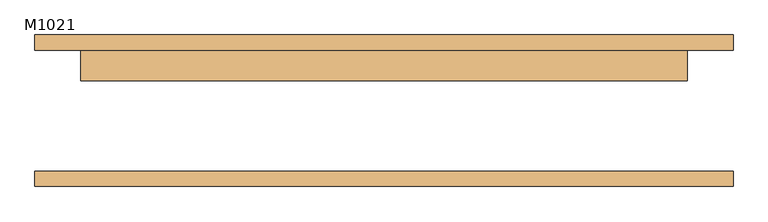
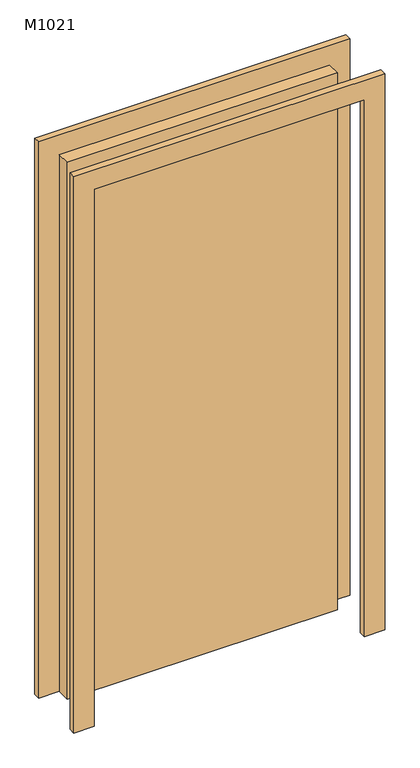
"""IFC4 building model written with IfcOpenShell, lengths in millimetres: door geometry, 单扇 - 与墙齐 : M1021."""

import ifcopenshell
import ifcopenshell.guid

model = None  # the IFC model being written
_history = None  # IfcOwnerHistory: only IFC2X3 demands one
_inside = {}  # id of a spatial element -> (the spatial element, [elements in it])
_under = {}  # id of a project, library or spatial element -> (it, [spatial elements below it])
_declared = {}  # id of a project -> (the project, [libraries it declares])
_typed = {}  # id of a type object -> (the type object, [elements of that type])
_made_of = {}  # id of a material, layer set ... -> (it, [elements and type objects made of it])


def new_model(schema):
    """Start an empty IFC model of exactly this schema.

    Asked for "IFC4X3", IfcOpenShell would pick the latest addendum, in which some entities
    have other attributes; the version numbers below select the first issue.
    IFC2X3 requires an IfcOwnerHistory on every rooted entity: one is made here for all.
    """
    global model, _history
    if schema == "IFC4X3":
        model = ifcopenshell.file(schema_version=(4, 3, 0, 0))
    else:
        model = ifcopenshell.file(schema=schema)
    _inside.clear()
    _under.clear()
    _declared.clear()
    _typed.clear()
    _made_of.clear()
    _history = None
    if model.schema == "IFC2X3":
        org = make("IfcOrganization", Name="unknown")
        user = make(
            "IfcPersonAndOrganization",
            ThePerson=make("IfcPerson", FamilyName="unknown"),
            TheOrganization=org,
        )
        app = make(
            "IfcApplication",
            ApplicationDeveloper=org,
            Version="unknown",
            ApplicationFullName="unknown",
            ApplicationIdentifier="unknown",
        )
        _history = make(
            "IfcOwnerHistory",
            OwningUser=user,
            OwningApplication=app,
            ChangeAction="ADDED",
            CreationDate=0,
        )
    return model


def make(cls, **values):
    """One entity of the class cls with the attributes given. An attribute that is None is left unset."""
    return model.create_entity(
        cls, **{name: value for name, value in values.items() if value is not None}
    )


def rooted(cls, **values):
    """An entity with a GlobalId (a new one), such as an element, a storey or a relation."""
    return make(cls, GlobalId=ifcopenshell.guid.new(), OwnerHistory=_history, **values)


def si_unit(unit_type, name, prefix=None):
    """IfcSIUnit, for example si_unit("LENGTHUNIT", "METRE", prefix="MILLI")."""
    return make("IfcSIUnit", UnitType=unit_type, Prefix=prefix, Name=name)


def assignment(units):
    """IfcUnitAssignment: the units of a project."""
    return None if units is None else make("IfcUnitAssignment", Units=units)


def point(xyz):
    """IfcCartesianPoint."""
    return None if xyz is None else make("IfcCartesianPoint", Coordinates=xyz)


def direction(xyz):
    """IfcDirection."""
    return None if xyz is None else make("IfcDirection", DirectionRatios=xyz)


def frame(location, z_axis=None, x_axis=None):
    """IfcAxis2Placement3D, a coordinate frame: its origin and axes. An axis left out is left unset."""
    return make(
        "IfcAxis2Placement3D",
        Location=point(location),
        Axis=direction(z_axis),
        RefDirection=direction(x_axis),
    )


def origin():
    """The frame at (0, 0, 0) with its axes left unset."""
    return frame((0.0, 0.0, 0.0))


def origin_with_axes():
    """The frame at (0, 0, 0) with the z axis (0, 0, 1) and the x axis (1, 0, 0) written out."""
    return frame((0.0, 0.0, 0.0), z_axis=(0.0, 0.0, 1.0), x_axis=(1.0, 0.0, 0.0))


def place(relative_to, where):
    """IfcLocalPlacement: puts the frame where relative to a parent placement (None: the world)."""
    return make(
        "IfcLocalPlacement", PlacementRelTo=relative_to, RelativePlacement=where
    )


def context(
    kind, dimensions, precision=None, world=None, true_north=None, identifier=None
):
    """IfcGeometricRepresentationContext, for example the 3D "Model" context."""
    return make(
        "IfcGeometricRepresentationContext",
        ContextIdentifier=identifier,
        ContextType=kind,
        CoordinateSpaceDimension=dimensions,
        Precision=precision,
        WorldCoordinateSystem=world,
        TrueNorth=true_north,
    )


def project(units=None, contexts=None):
    """IfcProject with its units and contexts."""
    return rooted(
        "IfcProject",
        Name="project",
        RepresentationContexts=contexts,
        UnitsInContext=assignment(units),
    )


def spatial(cls, under=None, at=None, **own):
    """A site, building, storey or space (cls), placed at a placement, below another one or the project."""
    s = rooted(cls, ObjectPlacement=at, **own)
    if under is not None:
        _under.setdefault(under.id(), (under, []))[1].append(s)
    return s


def polyline(points):
    """IfcPolyline through the points."""
    return make("IfcPolyline", Points=[point(p) for p in points])


def outline(outer, holes=None, kind="AREA"):
    """IfcArbitraryClosedProfileDef: a profile drawn as a closed curve; with holes, ...WithVoids."""
    if holes is None:
        return make("IfcArbitraryClosedProfileDef", ProfileType=kind, OuterCurve=outer)
    return make(
        "IfcArbitraryProfileDefWithVoids",
        ProfileType=kind,
        OuterCurve=outer,
        InnerCurves=holes,
    )


def extrude(swept, where, along, depth):
    """IfcExtrudedAreaSolid: the profile swept, set in the frame where, extruded along a direction by depth."""
    return make(
        "IfcExtrudedAreaSolid",
        SweptArea=swept,
        Position=where,
        ExtrudedDirection=direction(along),
        Depth=depth,
    )


def shape(context_of_items, identifier, shape_type, items):
    """IfcShapeRepresentation: the items that make up one representation, for example the "Body"."""
    return make(
        "IfcShapeRepresentation",
        ContextOfItems=context_of_items,
        RepresentationIdentifier=identifier,
        RepresentationType=shape_type,
        Items=items,
    )


def source(mapping_origin, context_of_items, identifier, shape_type, items):
    """IfcRepresentationMap: a shape defined once, which mapped items show again and again."""
    return make(
        "IfcRepresentationMap",
        MappingOrigin=mapping_origin,
        MappedRepresentation=shape(context_of_items, identifier, shape_type, items),
    )


def transform(
    local_origin,
    x_axis=None,
    y_axis=None,
    z_axis=None,
    scale=None,
    scale2=None,
    scale3=None,
    uniform=True,
):
    """IfcCartesianTransformationOperator3D, or its non-uniform kind. x_axis, y_axis, z_axis: its Axis1, 2, 3."""
    if uniform:
        return make(
            "IfcCartesianTransformationOperator3D",
            Axis1=direction(x_axis),
            Axis2=direction(y_axis),
            LocalOrigin=point(local_origin),
            Scale=scale,
            Axis3=direction(z_axis),
        )
    return make(
        "IfcCartesianTransformationOperator3DnonUniform",
        Axis1=direction(x_axis),
        Axis2=direction(y_axis),
        LocalOrigin=point(local_origin),
        Scale=scale,
        Axis3=direction(z_axis),
        Scale2=scale2,
        Scale3=scale3,
    )


def mapped(mapping_source, mapping_target):
    """IfcMappedItem: shows the shape of a source again, moved by a transform."""
    return make(
        "IfcMappedItem", MappingSource=mapping_source, MappingTarget=mapping_target
    )


def made_of(thing, what):
    """Note that an element or type object is made of a material, layer set ...; save() writes the relation."""
    if what is not None:
        _made_of.setdefault(what.id(), (what, []))[1].append(thing)
    return thing


def element(
    cls,
    number,
    at=None,
    inside=None,
    cuts=None,
    type_object=None,
    material=None,
    context=None,
    identifier="Body",
    shape_type=None,
    held_by="IfcProductDefinitionShape",
    body=None,
    shapes=None,
    **own,
):
    """One element of the class cls, such as IfcWall. Its Tag is "e" and its number.

    at: its placement. inside: the storey or other place that contains it. cuts: it is an
    opening in that element (IfcRelVoidsElement). A single representation is given by context,
    identifier, shape_type and body (its items); several are given by shapes. held_by: the class
    of the entity that holds the representations. save() writes the other relations.
    """
    e = rooted(cls, Tag="e%d" % number, ObjectPlacement=at, **own)
    if body is not None:
        shapes = [shape(context, identifier, shape_type, body)]
    if shapes is not None:
        e.Representation = make(held_by, Representations=shapes)
    if inside is not None:
        _inside.setdefault(inside.id(), (inside, []))[1].append(e)
    if cuts is not None:
        rooted(
            "IfcRelVoidsElement", RelatingBuildingElement=cuts, RelatedOpeningElement=e
        )
    if type_object is not None:
        _typed.setdefault(type_object.id(), (type_object, []))[1].append(e)
    return made_of(e, material)


def aggregate(whole, parts):
    """IfcRelAggregates: a whole, such as a stair, and the parts it consists of."""
    return rooted("IfcRelAggregates", RelatingObject=whole, RelatedObjects=parts)


def save(model, path):
    """Write the relations noted so far, then the file.

    IfcRelAggregates (storeys below a building ...), IfcRelContainedInSpatialStructure (elements
    in a storey), IfcRelDefinesByType, IfcRelAssociatesMaterial and IfcRelDeclares: one each for
    every whole, place, type object, material and project.
    """
    for whole, parts in _under.values():
        aggregate(whole, parts)
    for where, things in _inside.values():
        rooted(
            "IfcRelContainedInSpatialStructure",
            RelatedElements=things,
            RelatingStructure=where,
        )
    for kind, things in _typed.values():
        rooted("IfcRelDefinesByType", RelatedObjects=things, RelatingType=kind)
    for what, things in _made_of.values():
        rooted("IfcRelAssociatesMaterial", RelatedObjects=things, RelatingMaterial=what)
    for by, libraries in _declared.values():
        rooted("IfcRelDeclares", RelatingContext=by, RelatedDefinitions=libraries)
    model.write(path)


def m1021_0d59c61f(model_context):
    return source(origin(), model_context, "Body", "SweptSolid", [
        extrude(outline(polyline([(2176.0, -576.0), (0.0, -576.0), (0.0, -500.0), (2100.0, -500.0), (2100.0, 500.0), (0.0, 500.0), (0.0, 576.0), (2176.0, 576.0), (2176.0, -576.0)])), frame((0.0, 100.0, 0.0), z_axis=(0.0, 1.0, 0.0), x_axis=(0.0, 0.0, 1.0)), (0.0, 0.0, 1.0), 25.0),
        extrude(outline(polyline([(2176.0, 576.0), (2176.0, -576.0), (0.0, -576.0), (0.0, -500.0), (2100.0, -500.0), (2100.0, 500.0), (0.0, 500.0), (0.0, 576.0), (2176.0, 576.0)])), frame((0.0, -125.0, 0.0), z_axis=(0.0, 1.0, 0.0), x_axis=(0.0, 0.0, 1.0)), (0.0, 0.0, 1.0), 25.0),
        extrude(outline(polyline([(500.0, 49.0), (-500.0, 49.0), (-500.0, 100.0), (500.0, 100.0), (500.0, 49.0)])), origin_with_axes(), (0.0, 0.0, 1.0), 2100.0),
    ])


if __name__ == "__main__":
    model = new_model("IFC4")
    model_context = context("Model", 3, world=origin())
    ifc_project = project(units=[si_unit("LENGTHUNIT", "METRE", prefix="MILLI")], contexts=[model_context])
    site = spatial("IfcSite", under=ifc_project)
    building = spatial("IfcBuilding", under=site)
    placement = place(None, origin())
    m1021_shape = m1021_0d59c61f(model_context)
    element("IfcDoor", 1, ObjectType="单扇 - 与墙齐 : M1021", at=placement, inside=building, context=model_context, shape_type="MappedRepresentation", body=[
        mapped(m1021_shape, transform((0.0, 0.0, 0.0), x_axis=(1.0, 0.0, 0.0), y_axis=(0.0, 1.0, 0.0), z_axis=(0.0, 0.0, 1.0))),
    ])
    save(model, "model.ifc")
